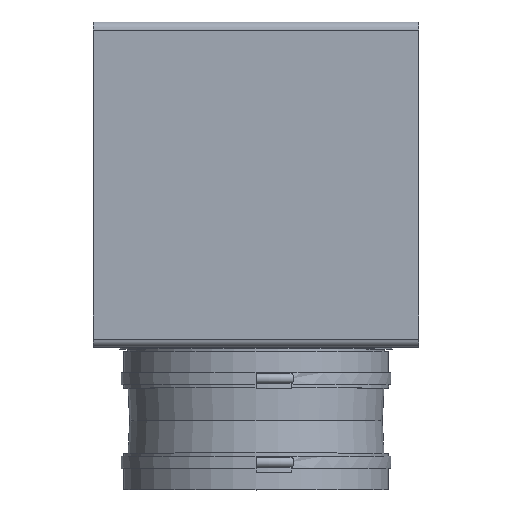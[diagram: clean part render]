
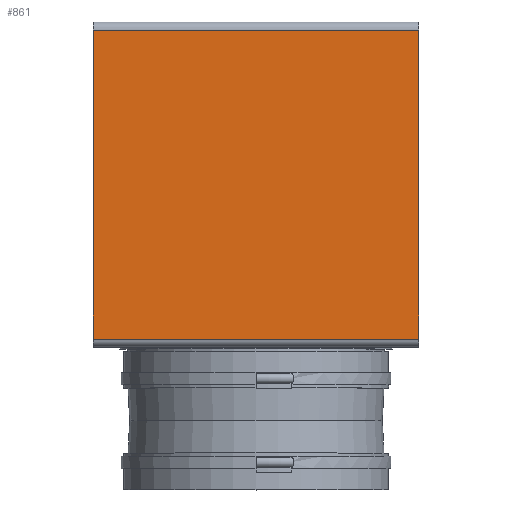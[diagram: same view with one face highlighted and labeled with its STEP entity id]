
A CAD part, top view. The second image highlights one B-rep face of the part: STEP entity #861.
In plain terms, the highlighted planar face has unit normal (0, 0, 1).
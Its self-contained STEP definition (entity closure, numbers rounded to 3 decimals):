
#91=PLANE('',#987);
#152=FACE_OUTER_BOUND('',#251,.T.);
#251=EDGE_LOOP('',(#762,#763,#764,#765));
#276=LINE('',#1419,#320);
#286=LINE('',#1448,#330);
#288=LINE('',#1454,#332);
#297=LINE('',#1505,#341);
#320=VECTOR('',#1169,10.);
#330=VECTOR('',#1195,10.);
#332=VECTOR('',#1203,10.);
#341=VECTOR('',#1266,10.);
#445=VERTEX_POINT('',#1416);
#446=VERTEX_POINT('',#1418);
#457=VERTEX_POINT('',#1446);
#458=VERTEX_POINT('',#1452);
#535=EDGE_CURVE('',#446,#445,#276,.T.);
#550=EDGE_CURVE('',#457,#445,#286,.T.);
#553=EDGE_CURVE('',#446,#458,#288,.T.);
#573=EDGE_CURVE('',#458,#457,#297,.T.);
#762=ORIENTED_EDGE('',*,*,#550,.F.);
#763=ORIENTED_EDGE('',*,*,#573,.F.);
#764=ORIENTED_EDGE('',*,*,#553,.F.);
#765=ORIENTED_EDGE('',*,*,#535,.T.);
#861=ADVANCED_FACE('',(#152),#91,.T.);
#987=AXIS2_PLACEMENT_3D('',#1504,#1264,#1265);
#1169=DIRECTION('',(0.,1.,0.));
#1195=DIRECTION('',(1.,0.,0.));
#1203=DIRECTION('',(-1.,0.,0.));
#1264=DIRECTION('center_axis',(0.,0.,1.));
#1265=DIRECTION('ref_axis',(1.,0.,0.));
#1266=DIRECTION('',(0.,1.,0.));
#1416=CARTESIAN_POINT('',(200.,190.,200.));
#1418=CARTESIAN_POINT('',(200.,-190.,200.));
#1419=CARTESIAN_POINT('',(200.,0.,200.));
#1446=CARTESIAN_POINT('',(-200.,190.,200.));
#1448=CARTESIAN_POINT('',(-100.,190.,200.));
#1452=CARTESIAN_POINT('',(-200.,-190.,200.));
#1454=CARTESIAN_POINT('',(-100.,-190.,200.));
#1504=CARTESIAN_POINT('Origin',(-200.,0.,200.));
#1505=CARTESIAN_POINT('',(-200.,0.,200.));
